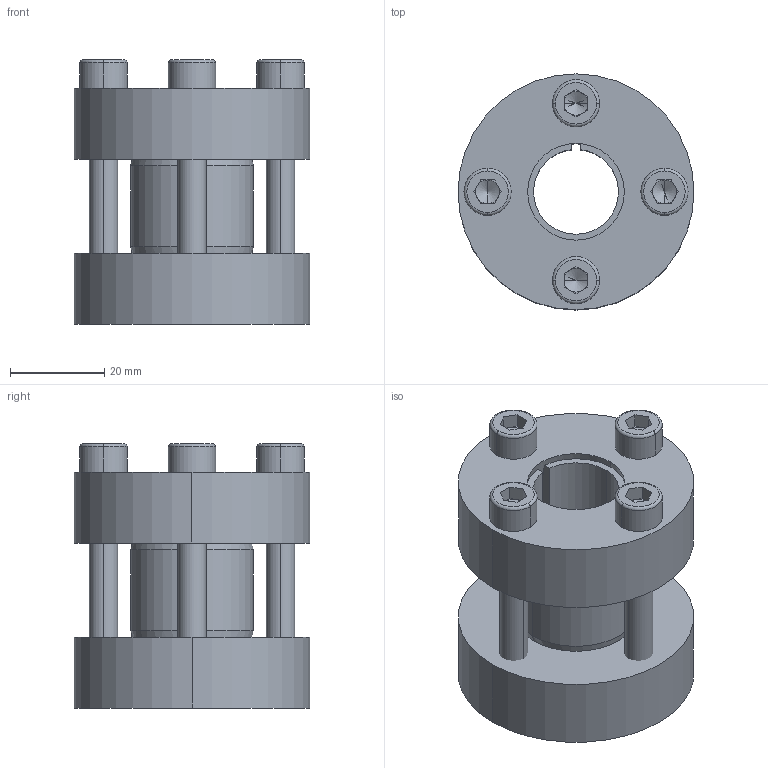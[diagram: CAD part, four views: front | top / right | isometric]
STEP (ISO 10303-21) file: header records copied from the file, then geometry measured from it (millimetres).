
FILE_DESCRIPTION (( 'STEP AP214' ), '1' );
FILE_NAME ('CONEX-M-18x50.step', '2013-04-06T13:25:00', ( 'Pc' ), ( '' ), 'SwSTEP 2.0', 'SolidWorks 2013', '' );
FILE_SCHEMA (( 'AUTOMOTIVE_DESIGN' ));
Length unit declared in the file: millimetre
Products named in the file (1): CONEX-M-18x50
Bounding box: 50 x 50 x 55.99 mm (x, y, z)
Volume: 59384.9 mm3; surface area: 26392.2 mm2
Topology: 7 solids, 7 shells, 152 faces, 342 edges, 204 vertices
Faces by surface type: plane 68, cylinder 42, cone 26, torus 16
Entity records: 5991 total; most frequent: DIRECTION 798, CARTESIAN_POINT 718, ORIENTED_EDGE 668, EDGE_CURVE 334, AXIS2_PLACEMENT_3D 315, VERTEX_POINT 204, EDGE_LOOP 180, LINE 168
